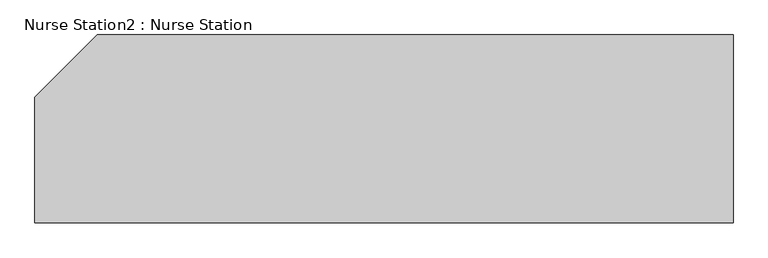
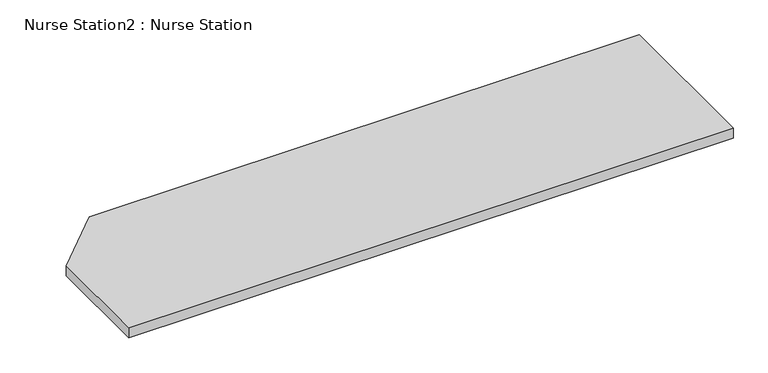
"""IFC4 building model written with IfcOpenShell, lengths in millimetres: furniture geometry, Nurse Station2 : Nurse Station."""

from ifc_helpers import new_model, si_unit, frame, origin, place, context, project, spatial, polyline, outline, extrude, source, transform, mapped, element, save


def nurse_station2_nurse_station_fc5f2db9(model_context):
    return source(origin(), model_context, "Body", "SweptSolid", [
        extrude(outline(polyline([(51098.7297081, -8472.8204396), (48866.9797081, -8472.8204396), (48866.9797081, -8072.8204396), (49066.9797081, -7872.8204396), (51098.7297081, -7872.8204396), (51098.7297081, -8472.8204396)])), frame((0.0, 0.0, 710.0), z_axis=(0.0, 0.0, 1.0), x_axis=(1.0, 0.0, 0.0)), (0.0, 0.0, 1.0), 40.0),
    ])


if __name__ == "__main__":
    model = new_model("IFC4")
    model_context = context("Model", 3, world=origin())
    ifc_project = project(units=[si_unit("LENGTHUNIT", "METRE", prefix="MILLI")], contexts=[model_context])
    site = spatial("IfcSite", under=ifc_project)
    building = spatial("IfcBuilding", under=site)
    placement = place(None, origin())
    nurse_station2_nurse_station_shape = nurse_station2_nurse_station_fc5f2db9(model_context)
    element("IfcFurniture", 1, ObjectType="Nurse Station2 : Nurse Station", at=placement, inside=building, context=model_context, shape_type="MappedRepresentation", body=[
        mapped(nurse_station2_nurse_station_shape, transform((0.0, 0.0, 0.0), x_axis=(1.0, 0.0, 0.0), y_axis=(0.0, 1.0, 0.0), z_axis=(0.0, 0.0, 1.0))),
    ])
    save(model, "model.ifc")
